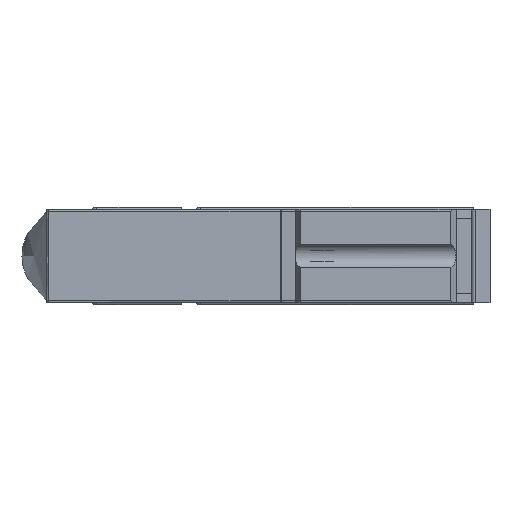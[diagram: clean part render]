
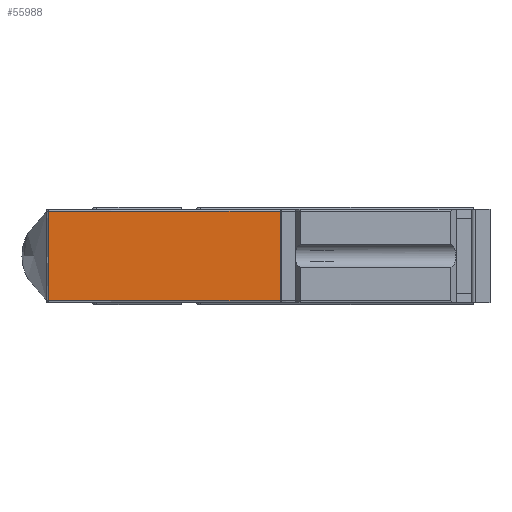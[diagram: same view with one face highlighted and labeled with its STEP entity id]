
A CAD part, left-side view. The second image highlights one B-rep face of the part: STEP entity #55988.
In plain terms, the highlighted planar face has unit normal (-1, 0, 0).
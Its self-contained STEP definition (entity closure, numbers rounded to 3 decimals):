
#1875 = CARTESIAN_POINT ( 'NONE',  ( 5.299, 53.2, -24.9 ) ) ;
#2372 = CARTESIAN_POINT ( 'NONE',  ( 5.299, 115.236, -4.9 ) ) ;
#6310 = AXIS2_PLACEMENT_3D ( 'NONE', #77753, #117475, #49350 ) ;
#9931 = PLANE ( 'NONE',  #6310 ) ;
#13289 = EDGE_CURVE ( 'NONE', #86281, #14126, #99227, .T. ) ;
#13563 = EDGE_CURVE ( 'NONE', #39120, #14126, #77494, .T. ) ;
#14126 = VERTEX_POINT ( 'NONE', #96684 ) ;
#14408 = CARTESIAN_POINT ( 'NONE',  ( 5.299, 53.2, -25.4 ) ) ;
#23191 = CARTESIAN_POINT ( 'NONE',  ( 5.299, 115.236, -20.9 ) ) ;
#23478 = ORIENTED_EDGE ( 'NONE', *, *, #13563, .F. ) ;
#24422 = EDGE_LOOP ( 'NONE', ( #103368, #23478, #41679, #70492 ) ) ;
#32998 = CARTESIAN_POINT ( 'NONE',  ( 5.299, 115.249, -16.9 ) ) ;
#37677 = FACE_OUTER_BOUND ( 'NONE', #24422, .T. ) ;
#39120 = VERTEX_POINT ( 'NONE', #118263 ) ;
#41662 = EDGE_CURVE ( 'NONE', #108874, #86281, #105111, .T. ) ;
#41679 = ORIENTED_EDGE ( 'NONE', *, *, #104001, .T. ) ;
#42709 = CARTESIAN_POINT ( 'NONE',  ( 5.299, 115.204, -0.9 ) ) ;
#49270 = LINE ( 'NONE', #93747, #105297 ) ;
#49350 = DIRECTION ( 'NONE',  ( 0., 0., 1. ) ) ;
#50707 = CARTESIAN_POINT ( 'NONE',  ( 5.299, 115.204, -24.9 ) ) ;
#53562 = VECTOR ( 'NONE', #101741, 1000. ) ;
#54207 = CARTESIAN_POINT ( 'NONE',  ( 5.299, 52.7, -0.9 ) ) ;
#55988 = ADVANCED_FACE ( 'NONE', ( #37677 ), #9931, .T. ) ;
#70492 = ORIENTED_EDGE ( 'NONE', *, *, #41662, .T. ) ;
#77494 = B_SPLINE_CURVE_WITH_KNOTS ( 'NONE', 3,
 ( #50707, #23191, #32998, #118864, #2372, #42709 ),
 .UNSPECIFIED., .F., .F.,
 ( 4, 2, 4 ),
 ( 0., 0.5, 1. ),
 .UNSPECIFIED. ) ;
#77753 = CARTESIAN_POINT ( 'NONE',  ( 5.299, 52.7, -25.4 ) ) ;
#84404 = DIRECTION ( 'NONE',  ( 0., -1., 0. ) ) ;
#86281 = VERTEX_POINT ( 'NONE', #103798 ) ;
#93747 = CARTESIAN_POINT ( 'NONE',  ( 5.299, 52.7, -24.9 ) ) ;
#96684 = CARTESIAN_POINT ( 'NONE',  ( 5.299, 115.204, -0.9 ) ) ;
#99227 = LINE ( 'NONE', #54207, #111322 ) ;
#101741 = DIRECTION ( 'NONE',  ( 0., 0., 1. ) ) ;
#103368 = ORIENTED_EDGE ( 'NONE', *, *, #13289, .T. ) ;
#103798 = CARTESIAN_POINT ( 'NONE',  ( 5.299, 53.2, -0.9 ) ) ;
#104001 = EDGE_CURVE ( 'NONE', #39120, #108874, #49270, .T. ) ;
#105111 = LINE ( 'NONE', #14408, #53562 ) ;
#105297 = VECTOR ( 'NONE', #84404, 1000. ) ;
#108874 = VERTEX_POINT ( 'NONE', #1875 ) ;
#111322 = VECTOR ( 'NONE', #121932, 1000. ) ;
#117475 = DIRECTION ( 'NONE',  ( -1., 0., 0. ) ) ;
#118263 = CARTESIAN_POINT ( 'NONE',  ( 5.299, 115.204, -24.9 ) ) ;
#118864 = CARTESIAN_POINT ( 'NONE',  ( 5.299, 115.249, -8.9 ) ) ;
#121932 = DIRECTION ( 'NONE',  ( 0., 1., 0. ) ) ;
